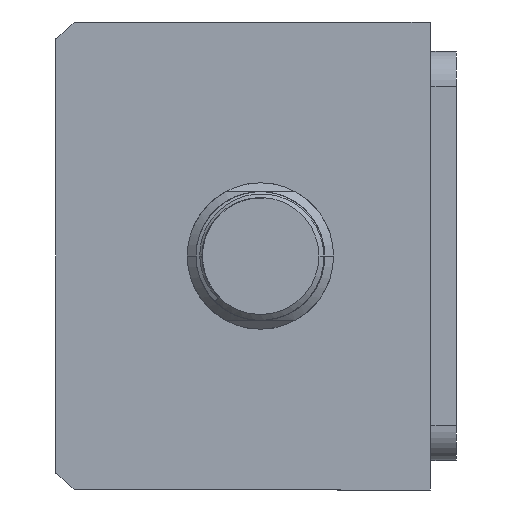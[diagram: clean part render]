
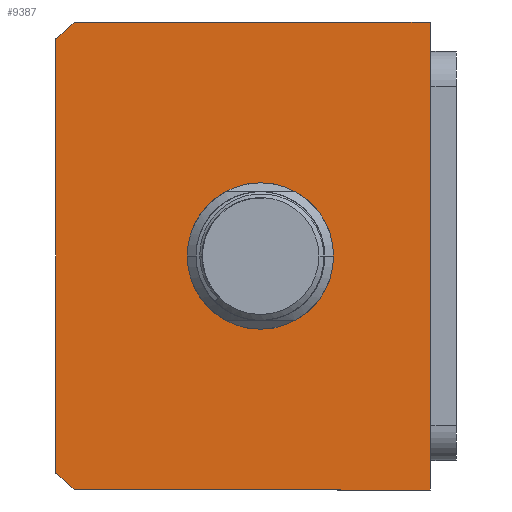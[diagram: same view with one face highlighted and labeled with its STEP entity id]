
A CAD part, front view. The second image highlights one B-rep face of the part: STEP entity #9387.
In plain terms, the highlighted planar face has unit normal (0, -1, 0) as drawn and (0, 0, -1) by its records, which use the part's own axes.
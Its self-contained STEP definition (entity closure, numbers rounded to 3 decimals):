
#449 = LINE ( 'NONE', #13499, #7239 ) ;
#600 = ORIENTED_EDGE ( 'NONE', *, *, #16111, .F. ) ;
#731 = VERTEX_POINT ( 'NONE', #15658 ) ;
#807 = CARTESIAN_POINT ( 'NONE',  ( 0., -40.507, 0. ) ) ;
#810 = VERTEX_POINT ( 'NONE', #7814 ) ;
#2164 = DIRECTION ( 'NONE',  ( 0., 0., 1. ) ) ;
#2183 = DIRECTION ( 'NONE',  ( 1., 0., 0. ) ) ;
#2223 = VERTEX_POINT ( 'NONE', #10391 ) ;
#2357 = EDGE_CURVE ( 'NONE', #13092, #810, #449, .T. ) ;
#2499 = CARTESIAN_POINT ( 'NONE',  ( 40., -11.507, 0. ) ) ;
#2624 = DIRECTION ( 'NONE',  ( 0., -1., 0. ) ) ;
#2657 = VERTEX_POINT ( 'NONE', #3791 ) ;
#2962 = FACE_BOUND ( 'NONE', #7921, .T. ) ;
#3213 = ORIENTED_EDGE ( 'NONE', *, *, #9350, .F. ) ;
#3744 = CARTESIAN_POINT ( 'NONE',  ( -12.5, -40.507, 0. ) ) ;
#3791 = CARTESIAN_POINT ( 'NONE',  ( -40., -72.145, 0. ) ) ;
#3811 = LINE ( 'NONE', #2499, #14198 ) ;
#3914 = CARTESIAN_POINT ( 'NONE',  ( 0., -40.507, 0. ) ) ;
#4049 = DIRECTION ( 'NONE',  ( 1., 0., 0. ) ) ;
#5074 = ORIENTED_EDGE ( 'NONE', *, *, #15794, .F. ) ;
#5288 = DIRECTION ( 'NONE',  ( 1., 0., 0. ) ) ;
#5588 = AXIS2_PLACEMENT_3D ( 'NONE', #807, #10280, #2183 ) ;
#5722 = LINE ( 'NONE', #12101, #12517 ) ;
#6102 = AXIS2_PLACEMENT_3D ( 'NONE', #15171, #7060, #16521 ) ;
#6314 = CIRCLE ( 'NONE', #5588, 12.5 ) ;
#6789 = VERTEX_POINT ( 'NONE', #11031 ) ;
#7060 = DIRECTION ( 'NONE',  ( 0., 0., 1. ) ) ;
#7237 = AXIS2_PLACEMENT_3D ( 'NONE', #3914, #13412, #5288 ) ;
#7239 = VECTOR ( 'NONE', #17569, 1000. ) ;
#7718 = VERTEX_POINT ( 'NONE', #9844 ) ;
#7814 = CARTESIAN_POINT ( 'NONE',  ( 37.094, -75.507, 0. ) ) ;
#7921 = EDGE_LOOP ( 'NONE', ( #10133, #9290 ) ) ;
#8325 = EDGE_CURVE ( 'NONE', #15937, #2223, #12866, .T. ) ;
#9105 = DIRECTION ( 'NONE',  ( -1., 0., 0. ) ) ;
#9281 = EDGE_CURVE ( 'NONE', #6789, #731, #3811, .T. ) ;
#9290 = ORIENTED_EDGE ( 'NONE', *, *, #8325, .T. ) ;
#9332 = EDGE_LOOP ( 'NONE', ( #5074, #600, #11005, #16951, #3213, #15477 ) ) ;
#9349 = CARTESIAN_POINT ( 'NONE',  ( 0., 0., 0. ) ) ;
#9350 = EDGE_CURVE ( 'NONE', #810, #6789, #10567, .T. ) ;
#9387 = ADVANCED_FACE ( 'NONE', ( #2962, #10142 ), #12098, .F. ) ;
#9520 = CARTESIAN_POINT ( 'NONE',  ( -37.094, -75.507, 0. ) ) ;
#9697 = VECTOR ( 'NONE', #9105, 1000. ) ;
#9844 = CARTESIAN_POINT ( 'NONE',  ( -40., -11.507, 0. ) ) ;
#10133 = ORIENTED_EDGE ( 'NONE', *, *, #17603, .T. ) ;
#10142 = FACE_OUTER_BOUND ( 'NONE', #9332, .T. ) ;
#10264 = CARTESIAN_POINT ( 'NONE',  ( 0., -40.507, 0. ) ) ;
#10280 = DIRECTION ( 'NONE',  ( 0., 0., 1. ) ) ;
#10391 = CARTESIAN_POINT ( 'NONE',  ( 12.5, -40.507, 0. ) ) ;
#10567 = CIRCLE ( 'NONE', #7237, 51. ) ;
#10579 = EDGE_CURVE ( 'NONE', #731, #7718, #13761, .T. ) ;
#11005 = ORIENTED_EDGE ( 'NONE', *, *, #10579, .F. ) ;
#11031 = CARTESIAN_POINT ( 'NONE',  ( 40., -72.145, 0. ) ) ;
#11209 = AXIS2_PLACEMENT_3D ( 'NONE', #10264, #2164, #11637 ) ;
#11424 = CIRCLE ( 'NONE', #11209, 51. ) ;
#11637 = DIRECTION ( 'NONE',  ( 1., 0., 0. ) ) ;
#12098 = PLANE ( 'NONE',  #16301 ) ;
#12101 = CARTESIAN_POINT ( 'NONE',  ( -40., -11.507, 0. ) ) ;
#12158 = DIRECTION ( 'NONE',  ( 0., 0., 1. ) ) ;
#12517 = VECTOR ( 'NONE', #2624, 1000. ) ;
#12866 = CIRCLE ( 'NONE', #6102, 12.5 ) ;
#13092 = VERTEX_POINT ( 'NONE', #9520 ) ;
#13412 = DIRECTION ( 'NONE',  ( 0., 0., 1. ) ) ;
#13499 = CARTESIAN_POINT ( 'NONE',  ( -40., -75.507, 0. ) ) ;
#13761 = LINE ( 'NONE', #14508, #9697 ) ;
#14198 = VECTOR ( 'NONE', #14690, 1000. ) ;
#14508 = CARTESIAN_POINT ( 'NONE',  ( -40., -11.507, 0. ) ) ;
#14690 = DIRECTION ( 'NONE',  ( 0., 1., 0. ) ) ;
#15171 = CARTESIAN_POINT ( 'NONE',  ( 0., -40.507, 0. ) ) ;
#15477 = ORIENTED_EDGE ( 'NONE', *, *, #2357, .F. ) ;
#15658 = CARTESIAN_POINT ( 'NONE',  ( 40., -11.507, 0. ) ) ;
#15794 = EDGE_CURVE ( 'NONE', #2657, #13092, #11424, .T. ) ;
#15937 = VERTEX_POINT ( 'NONE', #3744 ) ;
#16111 = EDGE_CURVE ( 'NONE', #7718, #2657, #5722, .T. ) ;
#16301 = AXIS2_PLACEMENT_3D ( 'NONE', #9349, #12158, #4049 ) ;
#16521 = DIRECTION ( 'NONE',  ( 1., 0., 0. ) ) ;
#16951 = ORIENTED_EDGE ( 'NONE', *, *, #9281, .F. ) ;
#17569 = DIRECTION ( 'NONE',  ( 1., 0., 0. ) ) ;
#17603 = EDGE_CURVE ( 'NONE', #2223, #15937, #6314, .T. ) ;
